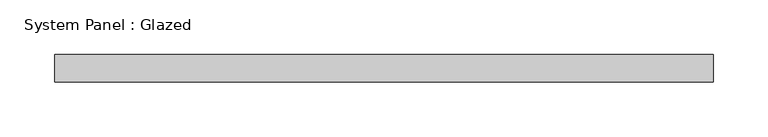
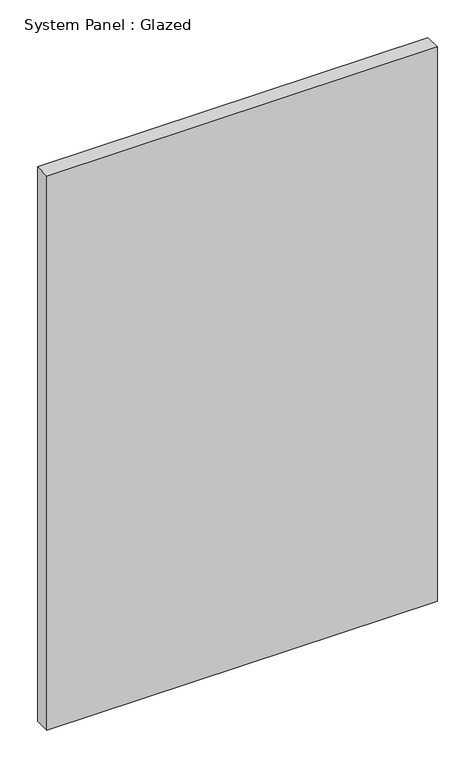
"""IFC4 building model written with IfcOpenShell, lengths in millimetres: plate geometry, System Panel : Glazed."""

from ifc_helpers import new_model, si_unit, origin, origin_with_axes, place, context, project, spatial, polyline, outline, extrude, source, transform, mapped, element, save


def system_panel_glazed_ecfc68fb(model_context):
    return source(origin(), model_context, "Body", "SweptSolid", [
        extrude(outline(polyline([(300.0, -49.5), (-300.0, -49.5), (-300.0, -24.5), (300.0, -24.5), (300.0, -49.5)])), origin_with_axes(), (0.0, 0.0, 1.0), 900.0),
    ])


if __name__ == "__main__":
    model = new_model("IFC4")
    model_context = context("Model", 3, world=origin())
    ifc_project = project(units=[si_unit("LENGTHUNIT", "METRE", prefix="MILLI")], contexts=[model_context])
    site = spatial("IfcSite", under=ifc_project)
    building = spatial("IfcBuilding", under=site)
    placement = place(None, origin())
    system_panel_glazed_shape = system_panel_glazed_ecfc68fb(model_context)
    element("IfcPlate", 1, ObjectType="System Panel : Glazed", at=placement, inside=building, context=model_context, shape_type="MappedRepresentation", body=[
        mapped(system_panel_glazed_shape, transform((0.0, 0.0, 0.0), x_axis=(1.0, 0.0, 0.0), y_axis=(0.0, 1.0, 0.0), z_axis=(0.0, 0.0, 1.0))),
    ])
    save(model, "model.ifc")
